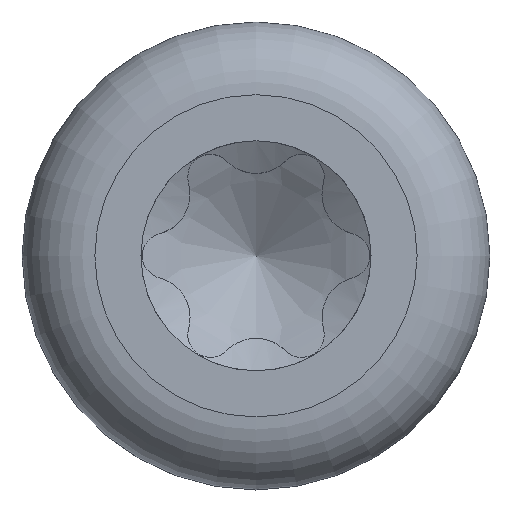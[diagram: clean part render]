
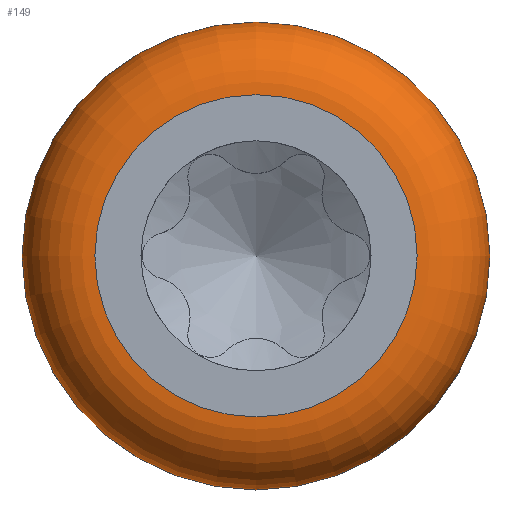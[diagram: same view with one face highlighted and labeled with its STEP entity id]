
A CAD part, top view. The second image highlights one B-rep face of the part: STEP entity #149.
In plain terms, the highlighted toroidal (fillet/blend) face has major radius 1.24 mm and minor radius 0.56 mm.
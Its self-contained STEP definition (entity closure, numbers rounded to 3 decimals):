
#116=TOROIDAL_SURFACE('',#699,1.24,0.56);
#127=FACE_BOUND('',#230,.T.);
#128=FACE_BOUND('',#231,.T.);
#149=ADVANCED_FACE('',(#127,#128),#116,.T.);
#230=EDGE_LOOP('',(#320));
#231=EDGE_LOOP('',(#321));
#280=CIRCLE('',#696,1.8);
#281=CIRCLE('',#698,1.24);
#320=ORIENTED_EDGE('',*,*,#562,.F.);
#321=ORIENTED_EDGE('',*,*,#561,.T.);
#494=VERTEX_POINT('',#1327);
#495=VERTEX_POINT('',#1330);
#561=EDGE_CURVE('',#494,#494,#280,.T.);
#562=EDGE_CURVE('',#495,#495,#281,.T.);
#696=AXIS2_PLACEMENT_3D('',#1326,#757,#758);
#698=AXIS2_PLACEMENT_3D('',#1329,#761,#762);
#699=AXIS2_PLACEMENT_3D('',#1331,#763,#764);
#757=DIRECTION('',(0.,0.,1.));
#758=DIRECTION('',(1.,0.,0.));
#761=DIRECTION('',(0.,0.,1.));
#762=DIRECTION('',(1.,0.,0.));
#763=DIRECTION('',(0.,0.,1.));
#764=DIRECTION('',(1.,0.,0.));
#1326=CARTESIAN_POINT('',(0.,0.,0.84));
#1327=CARTESIAN_POINT('',(1.8,0.,0.84));
#1329=CARTESIAN_POINT('',(0.,0.,1.4));
#1330=CARTESIAN_POINT('',(1.24,0.,1.4));
#1331=CARTESIAN_POINT('',(0.,0.,0.84));
